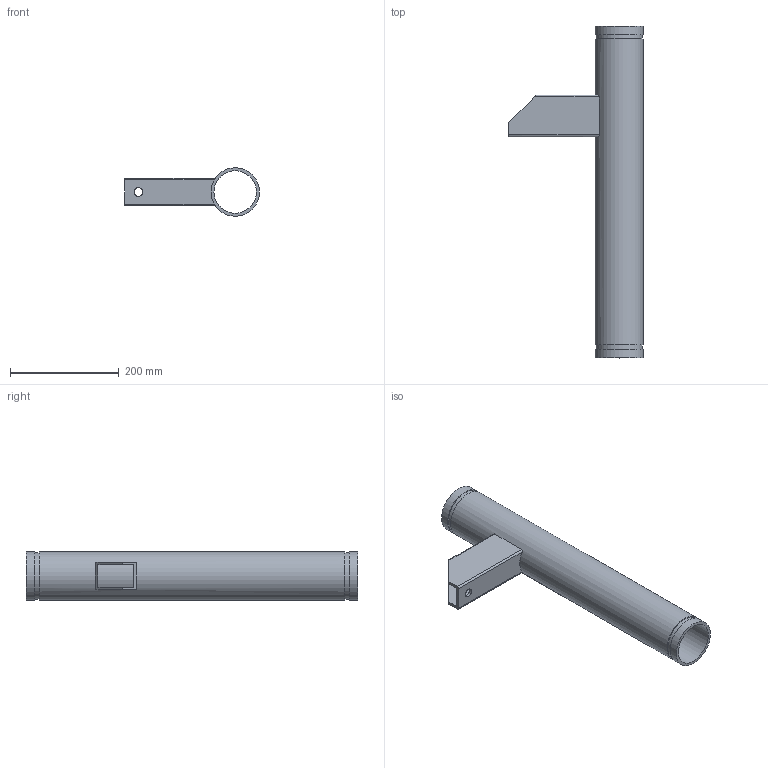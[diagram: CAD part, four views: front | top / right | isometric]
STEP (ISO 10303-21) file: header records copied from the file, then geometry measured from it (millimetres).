
FILE_DESCRIPTION(/* description */ ('VIC FLOOR MOUNTED RISER ANCHOR No A40'),/* implementation_level */ '2;1');
FILE_NAME(/* name */ 'C:\Files for Export\A40 & A40S-STEP-SWX\STEP\Victaulic_IPS_Riser Anchor_No A40 (OGS)\Victaulic_IPS_Riser Anchor_No A40 (OGS)_3 (80).stp',/* time_stamp */ '2024-06-07T07:36:21+02:00',/* author */ ('kkamble'),/* organization */ ('Victaulic'),/* preprocessor_version */ 'ST-DEVELOPER v18.1',/* originating_system */ 'Autodesk Inventor 2020',/* authorisation */ '');
FILE_SCHEMA (('AUTOMOTIVE_DESIGN { 1 0 10303 214 3 1 1 }'));
Length unit declared in the file: inch
Products named in the file (1): A40-03.0
Bounding box: 247.65 x 609.6 x 88.9 mm (x, y, z)
Volume: 1032681.6 mm3; surface area: 390966.4 mm2
Topology: 1 solids, 1 shells, 28 faces, 78 edges, 56 vertices
Faces by surface type: plane 16, cylinder 12
Full cylindrical faces by diameter (mm): 15.875 x1, 77.978 x1, 84.938 x2, 88.9 x3
Entity records: 1041 total; most frequent: CARTESIAN_POINT 199, DIRECTION 168, ORIENTED_EDGE 156, EDGE_CURVE 78, AXIS2_PLACEMENT_3D 65, VERTEX_POINT 56, LINE 38, VECTOR 38
